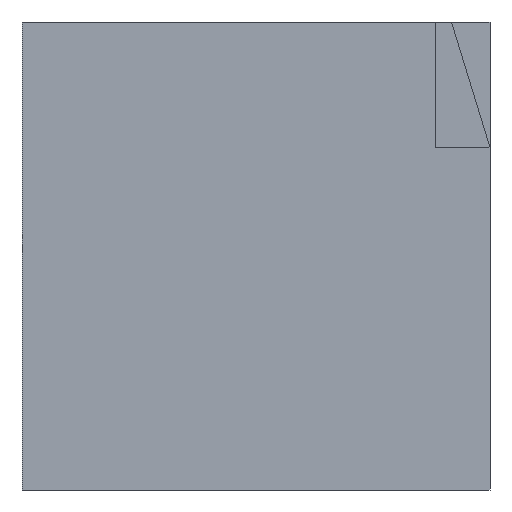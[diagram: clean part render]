
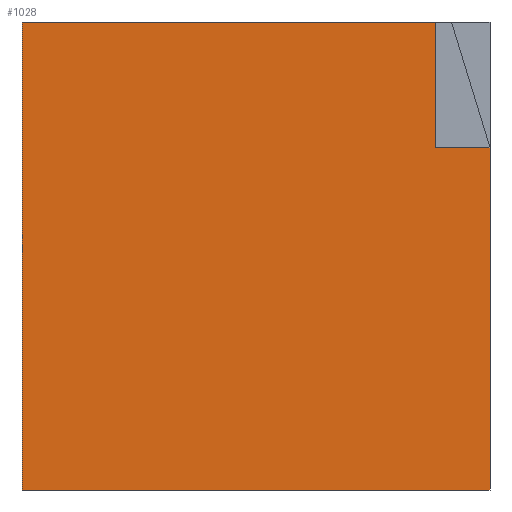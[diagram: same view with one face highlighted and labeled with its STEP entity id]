
A CAD part, front view. The second image highlights one B-rep face of the part: STEP entity #1028.
In plain terms, the highlighted planar face has unit normal (0, -1, 0).
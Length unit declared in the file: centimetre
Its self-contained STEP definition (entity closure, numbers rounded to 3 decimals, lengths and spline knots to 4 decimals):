
#18 = LINE ( 'NONE', #38, #1056 ) ;
#29 = ORIENTED_EDGE ( 'NONE', *, *, #1112, .F. ) ;
#38 = CARTESIAN_POINT ( 'NONE',  ( 0., 0., 0. ) ) ;
#45 = VERTEX_POINT ( 'NONE', #72 ) ;
#71 = DIRECTION ( 'NONE',  ( 1., 0., 0. ) ) ;
#72 = CARTESIAN_POINT ( 'NONE',  ( 1000., 0., 0. ) ) ;
#99 = AXIS2_PLACEMENT_3D ( 'NONE', #402, #508, #248 ) ;
#108 = VERTEX_POINT ( 'NONE', #252 ) ;
#143 = VECTOR ( 'NONE', #71, 100. ) ;
#152 = CARTESIAN_POINT ( 'NONE',  ( 0., 0., 1000. ) ) ;
#160 = VECTOR ( 'NONE', #574, 100. ) ;
#195 = EDGE_CURVE ( 'NONE', #375, #998, #228, .T. ) ;
#202 = CARTESIAN_POINT ( 'NONE',  ( 0., 0., 1000. ) ) ;
#206 = CARTESIAN_POINT ( 'NONE',  ( 0., 0., 0. ) ) ;
#228 = LINE ( 'NONE', #495, #160 ) ;
#248 = DIRECTION ( 'NONE',  ( 0., 0., 1. ) ) ;
#252 = CARTESIAN_POINT ( 'NONE',  ( 1000., 0., 731.3805 ) ) ;
#266 = VERTEX_POINT ( 'NONE', #320 ) ;
#320 = CARTESIAN_POINT ( 'NONE',  ( 882.7929, 0., 1000. ) ) ;
#375 = VERTEX_POINT ( 'NONE', #202 ) ;
#402 = CARTESIAN_POINT ( 'NONE',  ( 0., 0., 1000. ) ) ;
#406 = FACE_OUTER_BOUND ( 'NONE', #970, .T. ) ;
#495 = CARTESIAN_POINT ( 'NONE',  ( 0., 0., 1000. ) ) ;
#508 = DIRECTION ( 'NONE',  ( 0., 1., 0. ) ) ;
#550 = DIRECTION ( 'NONE',  ( 1., 0., 0. ) ) ;
#574 = DIRECTION ( 'NONE',  ( 0., 0., -1. ) ) ;
#583 = CARTESIAN_POINT ( 'NONE',  ( 1000., 0., 1000. ) ) ;
#585 = CARTESIAN_POINT ( 'NONE',  ( 882.7929, 0., 731.3805 ) ) ;
#620 = DIRECTION ( 'NONE',  ( 0., 0., -1. ) ) ;
#639 = EDGE_CURVE ( 'NONE', #375, #266, #770, .T. ) ;
#641 = VERTEX_POINT ( 'NONE', #856 ) ;
#653 = EDGE_CURVE ( 'NONE', #108, #45, #1023, .T. ) ;
#683 = PLANE ( 'NONE',  #99 ) ;
#756 = LINE ( 'NONE', #765, #946 ) ;
#765 = CARTESIAN_POINT ( 'NONE',  ( 882.7929, 0., 731.3805 ) ) ;
#770 = LINE ( 'NONE', #152, #143 ) ;
#777 = ORIENTED_EDGE ( 'NONE', *, *, #195, .T. ) ;
#827 = ORIENTED_EDGE ( 'NONE', *, *, #894, .T. ) ;
#856 = CARTESIAN_POINT ( 'NONE',  ( 882.7929, 0., 731.3805 ) ) ;
#858 = DIRECTION ( 'NONE',  ( 1., 0., 0. ) ) ;
#873 = VECTOR ( 'NONE', #858, 100. ) ;
#894 = EDGE_CURVE ( 'NONE', #998, #45, #18, .T. ) ;
#912 = ORIENTED_EDGE ( 'NONE', *, *, #653, .F. ) ;
#946 = VECTOR ( 'NONE', #1111, 100. ) ;
#970 = EDGE_LOOP ( 'NONE', ( #912, #29, #1066, #1091, #777, #827 ) ) ;
#998 = VERTEX_POINT ( 'NONE', #206 ) ;
#1023 = LINE ( 'NONE', #583, #1095 ) ;
#1028 = ADVANCED_FACE ( 'NONE', ( #406 ), #683, .F. ) ;
#1035 = LINE ( 'NONE', #585, #873 ) ;
#1056 = VECTOR ( 'NONE', #550, 100. ) ;
#1066 = ORIENTED_EDGE ( 'NONE', *, *, #1073, .F. ) ;
#1073 = EDGE_CURVE ( 'NONE', #266, #641, #756, .T. ) ;
#1091 = ORIENTED_EDGE ( 'NONE', *, *, #639, .F. ) ;
#1095 = VECTOR ( 'NONE', #620, 100. ) ;
#1111 = DIRECTION ( 'NONE',  ( 0., 0., -1. ) ) ;
#1112 = EDGE_CURVE ( 'NONE', #641, #108, #1035, .T. ) ;
